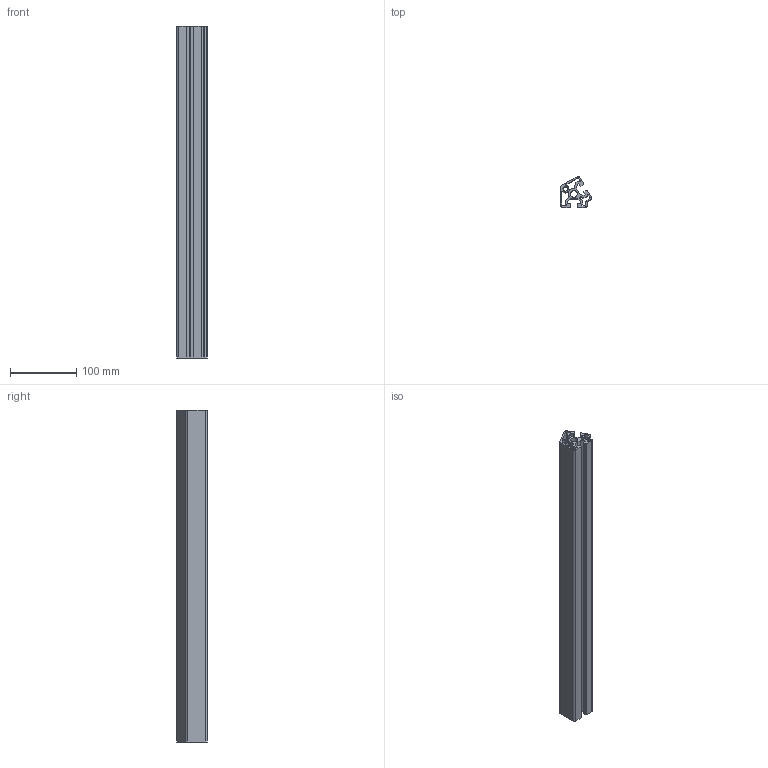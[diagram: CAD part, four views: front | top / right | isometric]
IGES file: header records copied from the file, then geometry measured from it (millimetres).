
Start section: SolidWorks IGES file using analytic representation for surfaces
Global section: file name: C:\Documents and Settings\Administrator\デスクトップ\指定保存後4回目\SolidWorks\SF\SF40・45\Frame\SFF-J74C.IGS; native system: SolidWorks 2006 by SolidWorks Corporation; preprocessor: SolidWorks 2006 by SolidWorks Corporation; author: Administrator; date: 061218.111740; units: millimetre
Bounding box: 46.22 x 46.22 x 500 mm (x, y, z)
Volume: 340338.4 mm3; surface area: 240000.5 mm2
Topology: 1 solids, 1 shells, 111 faces, 327 edges, 218 vertices
Faces by surface type: plane 56, revolution 55
